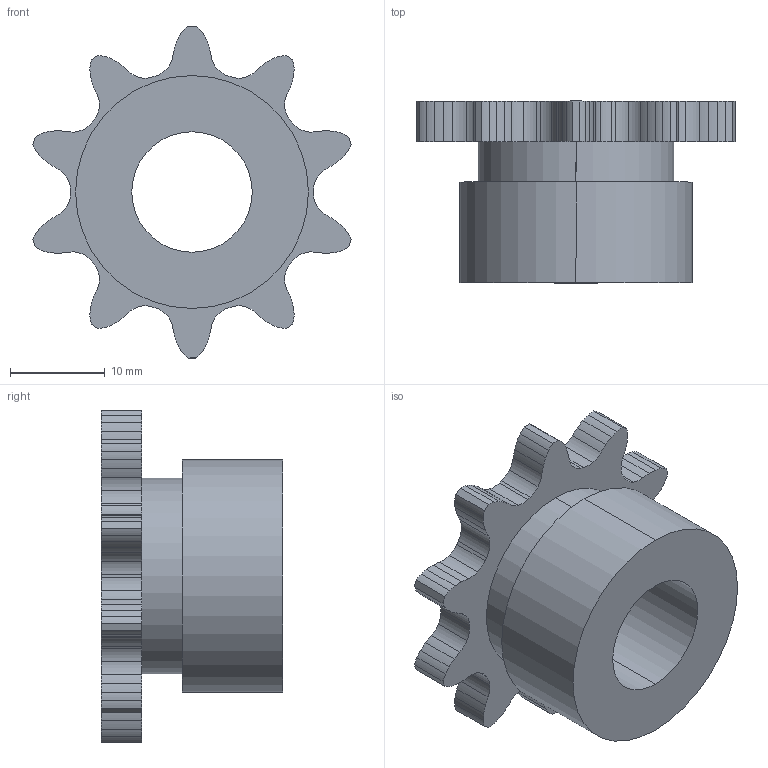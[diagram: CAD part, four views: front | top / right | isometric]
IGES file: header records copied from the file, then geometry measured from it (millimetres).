
Global section: file name: C:\Documents and Settings\Administrator\Desktop\Transfer Temp\rcss-3810.igs; native system: AutoDesk Inventor R2.0 ; preprocessor: AutoDesk Inventor Iges Exporter R2.0; author: No Author specified; organization: No Organization specified; date: 20011229.124540; units: inch
Bounding box: 33.56 x 19.15 x 35.03 mm (x, y, z)
Surface area: 3870.1 mm2 (no closed solid volume)
Topology: 0 solids, 0 shells, 150 faces, 878 edges, 878 vertices
Faces by surface type: revolution 126, bspline 24
